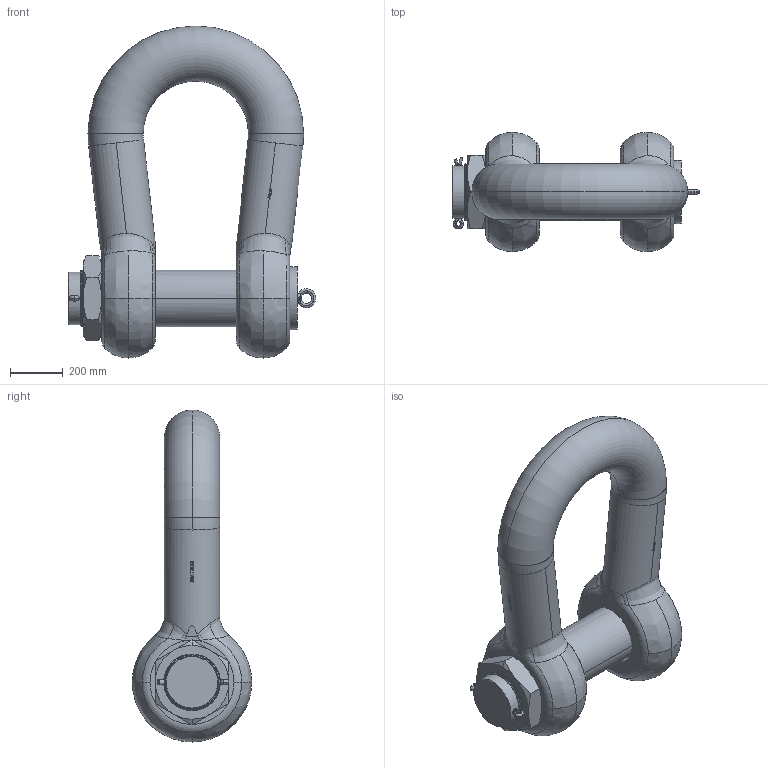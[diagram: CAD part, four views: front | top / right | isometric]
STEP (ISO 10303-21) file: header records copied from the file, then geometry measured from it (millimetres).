
FILE_DESCRIPTION(('STEP AP214'),'1');
FILE_NAME('hdgphm0700.stp','2017-06-30T09:25:58',('TraceParts'),('TraceParts S.A.'),'Spatial InterOp 3D',' ',' ');
FILE_SCHEMA(('automotive_design'));
Length unit declared in the file: millimetre
Products named in the file (5): HDGPHM0700|HDGPHM0700_1#HDGPHM0700_1;MANIFOLD_SOLID_BREP #19944; HDGPHM0700|HDGPHM0700_1#HDGPHM0700_2;MANIFOLD_SOLID_BREP #38759; hdgphm0700_3; hdgphm0700_4; hdgphm0700_5
Bounding box: 941 x 454 x 1262.49 mm (x, y, z)
Volume: 136886739 mm3; surface area: 3239407.3 mm2
Topology: 5 solids, 5 shells, 1224 faces, 5051 edges, 3886 vertices
Faces by surface type: bspline 438, plane 392, cylinder 332, torus 36, cone 26
Entity records: 105359 total; most frequent: CARTESIAN_POINT 61622, ORIENTED_EDGE 10098, EDGE_CURVE 5049, VERTEX_POINT 3886, B_SPLINE_CURVE_WITH_KNOTS 3788, DIRECTION 2893, EDGE_LOOP 1285, STYLED_ITEM 1229
